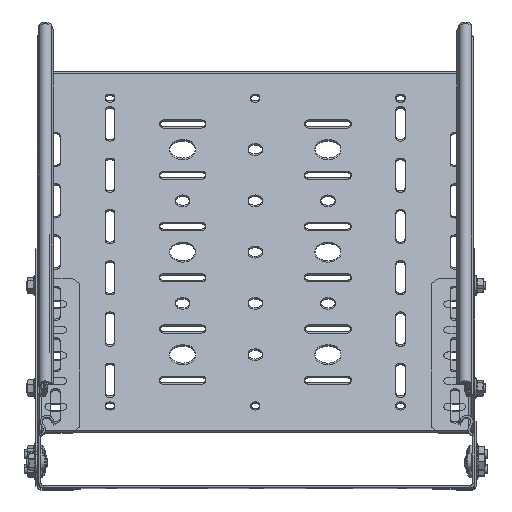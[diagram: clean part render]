
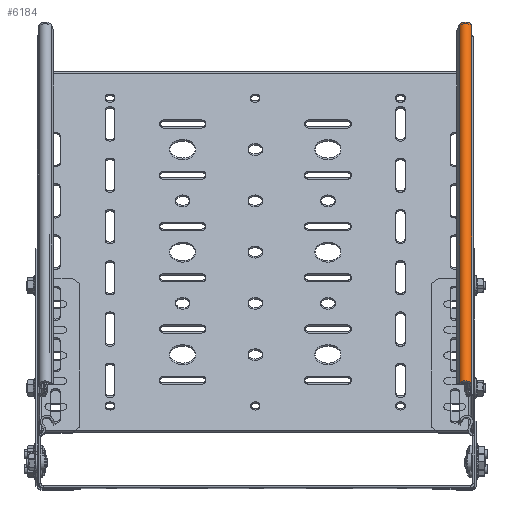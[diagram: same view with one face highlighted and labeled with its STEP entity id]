
A CAD part, top view. The second image highlights one B-rep face of the part: STEP entity #6184.
In plain terms, the highlighted cylindrical face has radius 4.5 mm (diameter 9 mm), a partial arc.
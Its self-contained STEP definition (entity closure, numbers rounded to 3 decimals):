
#787 = LINE ( 'NONE', #10788, #8128 ) ;
#1268 = EDGE_LOOP ( 'NONE', ( #11674, #5865, #11435, #8556 ) ) ;
#1528 = CYLINDRICAL_SURFACE ( 'NONE', #14152, 4.5 ) ;
#1615 = CARTESIAN_POINT ( 'NONE',  ( 148.471, 43.382, -175. ) ) ;
#2418 = VERTEX_POINT ( 'NONE', #17048 ) ;
#3130 = EDGE_CURVE ( 'NONE', #12671, #5118, #787, .T. ) ;
#3496 = EDGE_CURVE ( 'NONE', #13051, #5118, #14541, .T. ) ;
#5118 = VERTEX_POINT ( 'NONE', #1615 ) ;
#5234 = AXIS2_PLACEMENT_3D ( 'NONE', #10780, #11018, #10339 ) ;
#5865 = ORIENTED_EDGE ( 'NONE', *, *, #7466, .F. ) ;
#6184 = ADVANCED_FACE ( 'NONE', ( #9331 ), #1528, .T. ) ;
#6795 = DIRECTION ( 'NONE',  ( 0., 0., -1. ) ) ;
#6955 = CIRCLE ( 'NONE', #16607, 4.5 ) ;
#7466 = EDGE_CURVE ( 'NONE', #2418, #13051, #7974, .T. ) ;
#7974 = LINE ( 'NONE', #11495, #10010 ) ;
#8128 = VECTOR ( 'NONE', #9313, 1000. ) ;
#8556 = ORIENTED_EDGE ( 'NONE', *, *, #3130, .T. ) ;
#8613 = DIRECTION ( 'NONE',  ( 0., 0., -1. ) ) ;
#9313 = DIRECTION ( 'NONE',  ( 0., 0., -1. ) ) ;
#9331 = FACE_OUTER_BOUND ( 'NONE', #1268, .T. ) ;
#9776 = CARTESIAN_POINT ( 'NONE',  ( 140.529, 47.618, -175. ) ) ;
#10010 = VECTOR ( 'NONE', #6795, 1000. ) ;
#10035 = DIRECTION ( 'NONE',  ( -1., 0., 0. ) ) ;
#10237 = DIRECTION ( 'NONE',  ( 1., 0., 0. ) ) ;
#10263 = CARTESIAN_POINT ( 'NONE',  ( 144.5, 45.5, 175. ) ) ;
#10339 = DIRECTION ( 'NONE',  ( 1., 0., 0. ) ) ;
#10780 = CARTESIAN_POINT ( 'NONE',  ( 144.5, 45.5, -175. ) ) ;
#10788 = CARTESIAN_POINT ( 'NONE',  ( 148.471, 43.382, 175. ) ) ;
#11018 = DIRECTION ( 'NONE',  ( 0., 0., -1. ) ) ;
#11423 = CARTESIAN_POINT ( 'NONE',  ( 148.471, 43.382, 175. ) ) ;
#11435 = ORIENTED_EDGE ( 'NONE', *, *, #15585, .T. ) ;
#11495 = CARTESIAN_POINT ( 'NONE',  ( 140.529, 47.618, 175. ) ) ;
#11674 = ORIENTED_EDGE ( 'NONE', *, *, #3496, .F. ) ;
#12671 = VERTEX_POINT ( 'NONE', #11423 ) ;
#13051 = VERTEX_POINT ( 'NONE', #9776 ) ;
#13131 = CARTESIAN_POINT ( 'NONE',  ( 144.5, 45.5, 175. ) ) ;
#14152 = AXIS2_PLACEMENT_3D ( 'NONE', #13131, #17518, #10035 ) ;
#14541 = CIRCLE ( 'NONE', #5234, 4.5 ) ;
#15585 = EDGE_CURVE ( 'NONE', #2418, #12671, #6955, .T. ) ;
#16607 = AXIS2_PLACEMENT_3D ( 'NONE', #10263, #8613, #10237 ) ;
#17048 = CARTESIAN_POINT ( 'NONE',  ( 140.529, 47.618, 175. ) ) ;
#17518 = DIRECTION ( 'NONE',  ( 0., 0., -1. ) ) ;
